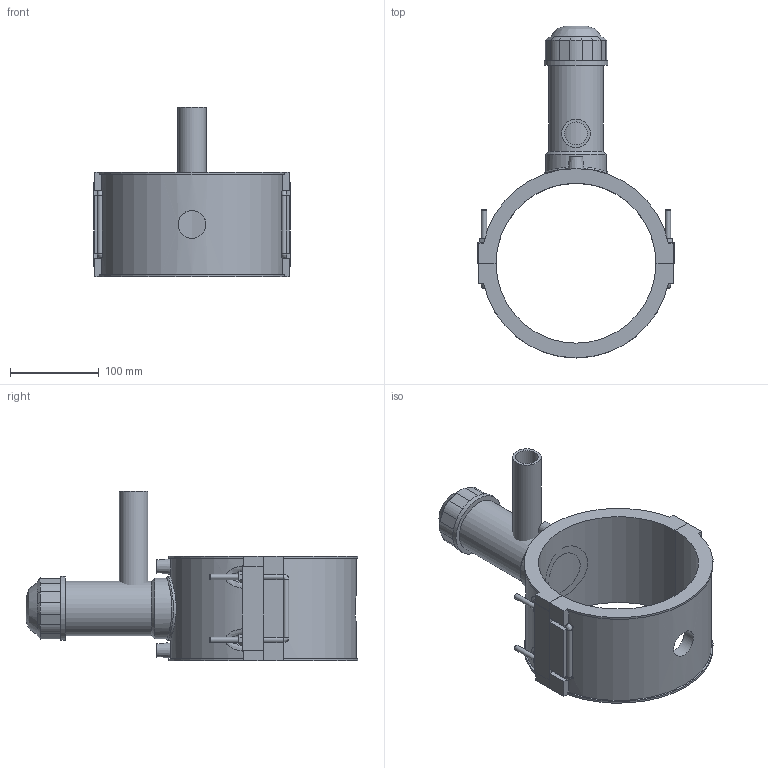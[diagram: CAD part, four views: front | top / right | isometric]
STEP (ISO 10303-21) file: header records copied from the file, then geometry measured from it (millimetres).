
FILE_DESCRIPTION(/* description */ (''),/* implementation_level */ '2;1');
FILE_NAME(/* name */ 'C:\Dropbox\KIMPROJECTS-Inventor 2019\99-16-3568-Processing\ElectroFusion Fittings\4963P4\stp\4963P4180032.stp',/* time_stamp */ '2022-03-17T11:30:52+02:00',/* author */ ('KIM'),/* organization */ (''),/* preprocessor_version */ 'ST-DEVELOPER v17.2',/* originating_system */ 'Autodesk Inventor 2019',/* authorisation */ '');
FILE_SCHEMA (('AP203_CONFIGURATION_CONTROLLED_3D_DESIGN_OF_MECHANICAL_PARTS_AND_ASSEMBLIES_MIM_LF { 1 0 10303 203 3 1 4 }','AUTOMOTIVE_DESIGN { 1 0 10303 214 3 1 1 }'));
Length unit declared in the file: millimetre
Products named in the file (1): 4963P4180032
Bounding box: 221 x 373.49 x 191 mm (x, y, z)
Volume: 1459697.4 mm3; surface area: 279233.5 mm2
Topology: 3 solids, 3 shells, 193 faces, 494 edges, 316 vertices
Faces by surface type: plane 111, cylinder 53, cone 15, bspline 14
Full cylindrical faces by diameter (mm): 4 x2, 6 x8, 10 x2, 25.6 x1, 31.36 x1, 32 x1, 50.4 x1, 61.2 x1, 68.4 x1, 72 x2
Entity records: 7018 total; most frequent: CARTESIAN_POINT 2359, ORIENTED_EDGE 972, DIRECTION 922, EDGE_CURVE 486, VERTEX_POINT 316, AXIS2_PLACEMENT_3D 313, LINE 296, VECTOR 296
